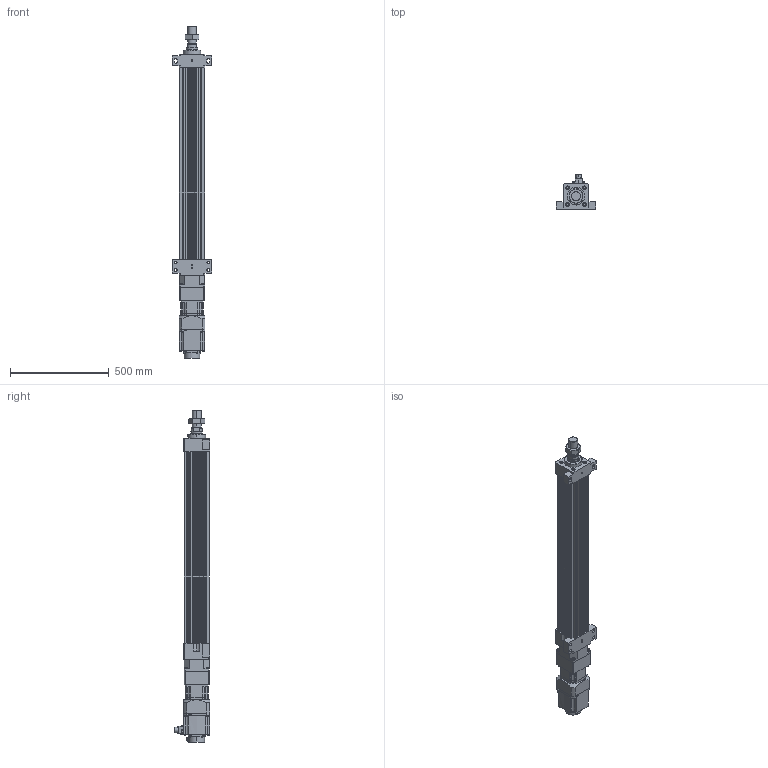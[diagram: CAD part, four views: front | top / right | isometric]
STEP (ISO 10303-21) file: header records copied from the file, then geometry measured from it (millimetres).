
FILE_DESCRIPTION (( 'STEP AP203' ), '1' );
FILE_NAME ('HES130NS(FS)(HS)-S750-W015G00-M-FFB.STEP', '2023-01-30T09:30:53', ( 'tms' ), ( '' ), 'SwSTEP 2.0', 'SolidWorks 2013', '' );
FILE_SCHEMA (( 'CONFIG_CONTROL_DESIGN' ));
Length unit declared in the file: millimetre
Products named in the file (8): P0401400706; HG-SR152; HES130 ROD M ST750; HES130-S750-G120-FFB; M45X1.5P; AB115-003[HG-SR152]; AB1151; HES130NS(FS)(HS)-S750-W015G00-M-FFB
Assembly tree (7 placements, depth 3):
  HES130NS(FS)(HS)-S750-W015G00-M-FFB
    HES130-S750-G120-FFB
    HES130 ROD M ST750
    M45X1.5P
    AB115-003[HG-SR152]
      AB1151
      P0401400706
    HG-SR152
Bounding box: 200 x 177.49 x 1679.5 mm (x, y, z)
Volume: 13448486.2 mm3; surface area: 1785712.2 mm2
Topology: 4 solids, 15 shells, 1211 faces, 3070 edges, 1998 vertices
Faces by surface type: plane 571, cylinder 546, cone 82, bspline 8, torus 4
Entity records: 38310 total; most frequent: CARTESIAN_POINT 7264, DIRECTION 6633, ORIENTED_EDGE 6092, EDGE_CURVE 3056, AXIS2_PLACEMENT_3D 2435, VERTEX_POINT 1998, VECTOR 1763, LINE 1763
